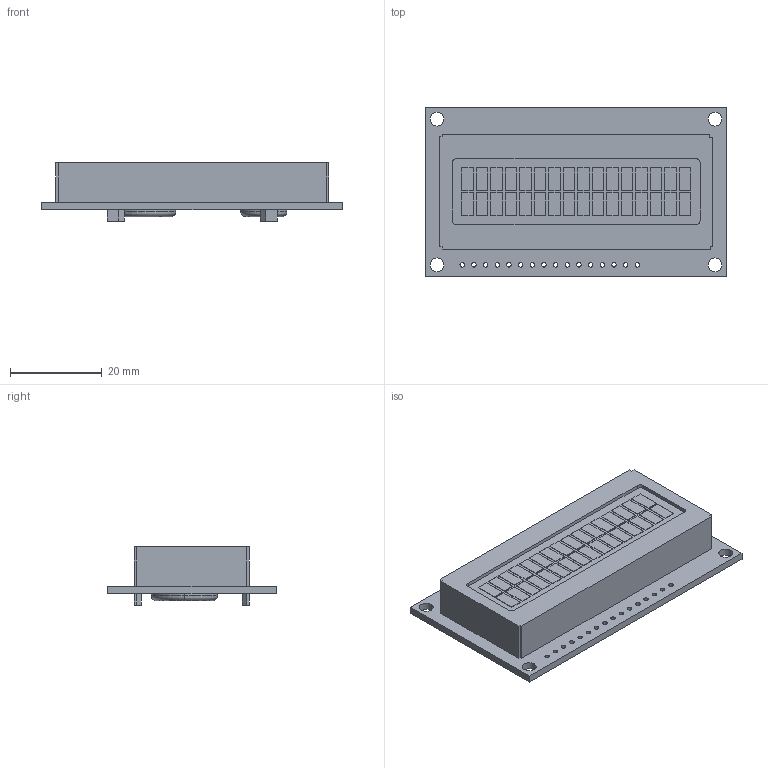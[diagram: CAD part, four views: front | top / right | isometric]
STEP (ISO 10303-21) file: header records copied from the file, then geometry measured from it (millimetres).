
FILE_DESCRIPTION (( 'STEP AP214' ), '1' );
FILE_NAME ('NHD-0216HZ-FSW-FBW-33V3C.STEP', '2019-02-27T19:10:19', ( '' ), ( '' ), 'SwSTEP 2.0', 'SolidWorks 2018', '' );
FILE_SCHEMA (( 'AUTOMOTIVE_DESIGN' ));
Length unit declared in the file: millimetre
Products named in the file (1): NHD-0216HZ-FSW-FBW-33V3C
Bounding box: 65.5 x 36.7 x 12.7 mm (x, y, z)
Volume: 16327.4 mm3; surface area: 6972.4 mm2
Topology: 1 solids, 1 shells, 266 faces, 672 edges, 448 vertices
Faces by surface type: plane 214, cylinder 48, torus 4
Entity records: 10995 total; most frequent: CARTESIAN_POINT 1428, ORIENTED_EDGE 1344, DIRECTION 1306, EDGE_CURVE 672, LINE 568, VECTOR 568, VERTEX_POINT 448, AXIS2_PLACEMENT_3D 369
